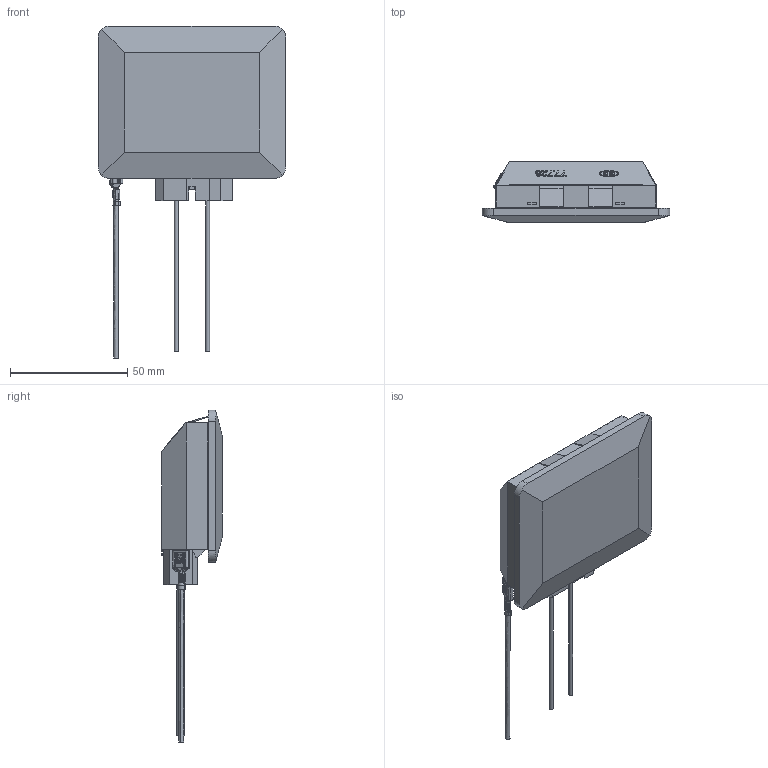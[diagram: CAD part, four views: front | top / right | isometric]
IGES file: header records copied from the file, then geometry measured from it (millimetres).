
Global section: file name: C:\CoreTechnologie\3D-In/01KYA65Y03.igs; native system: CT CoreTechnologie 3D Evolution; preprocessor: 2006; author: ; organization: Y¡_; date: 1210626.094945; units: millimetre
Bounding box: 80 x 26 x 141.53 mm (x, y, z)
Volume: 43613.9 mm3; surface area: 41348.8 mm2
Topology: 6 solids, 6 shells, 980 faces, 2560 edges, 1630 vertices
Faces by surface type: plane 598, revolution 286, bspline 96
